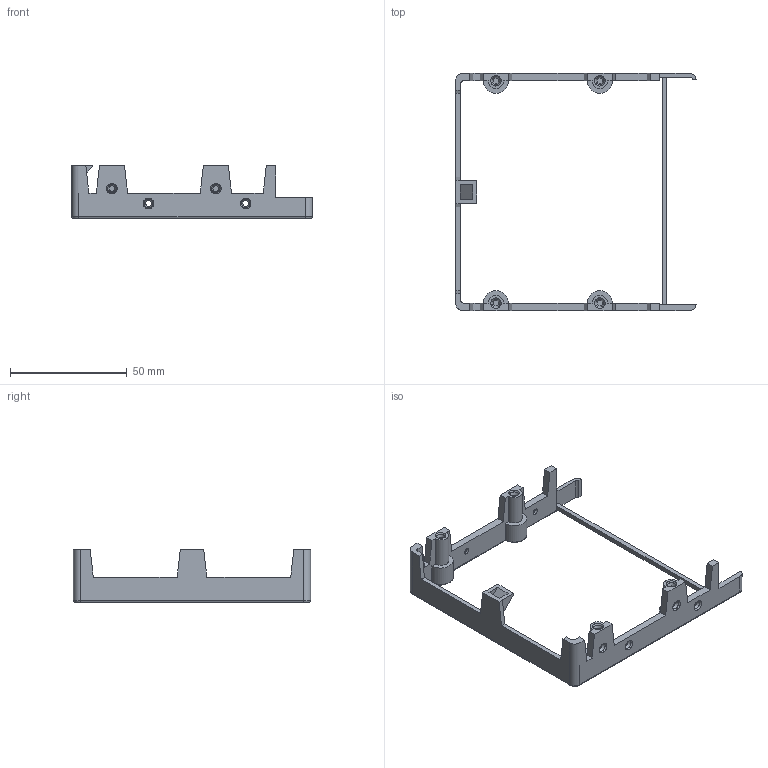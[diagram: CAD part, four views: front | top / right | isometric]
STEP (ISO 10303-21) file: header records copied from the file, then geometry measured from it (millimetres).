
FILE_DESCRIPTION(/* description */ (''),/* implementation_level */ '2;1');
FILE_NAME(/* name */ 'E:/OneDrive/projects/3.5 Hard Drive 50-pin SCSI PCB/123d design/New folder/3.5 Hard Drive Case 50-pin SCSI TH 100 bottom cover openings.stp',/* time_stamp */ '2022-01-04T23:47:18-05:00',/* author */ (''),/* organization */ (''),/* preprocessor_version */ 'ST-DEVELOPER v15.2',/* originating_system */ 'Autodesk Translator Framework v2.0.0.5431',/* authorisation */ '');
FILE_SCHEMA (('AUTOMOTIVE_DESIGN { 1 0 10303 214 3 1 1 }'));
Length unit declared in the file: centimetre
Products named in the file (1): 3.5 Hard Drive Case 50-pin SCSI TH 100 bottom cover openings
Bounding box: 103 x 101.6 x 22.5 mm (x, y, z)
Volume: 14197.1 mm3; surface area: 12974.6 mm2
Topology: 1 solids, 1 shells, 161 faces, 407 edges, 260 vertices
Faces by surface type: plane 78, cylinder 41, cone 32, torus 10
Full cylindrical faces by diameter (mm): 2.5 x4, 2.54 x12
Entity records: 4598 total; most frequent: CARTESIAN_POINT 879, DIRECTION 777, ORIENTED_EDGE 694, EDGE_CURVE 347, AXIS2_PLACEMENT_3D 278, VERTEX_POINT 248, EDGE_LOOP 231, LINE 221
